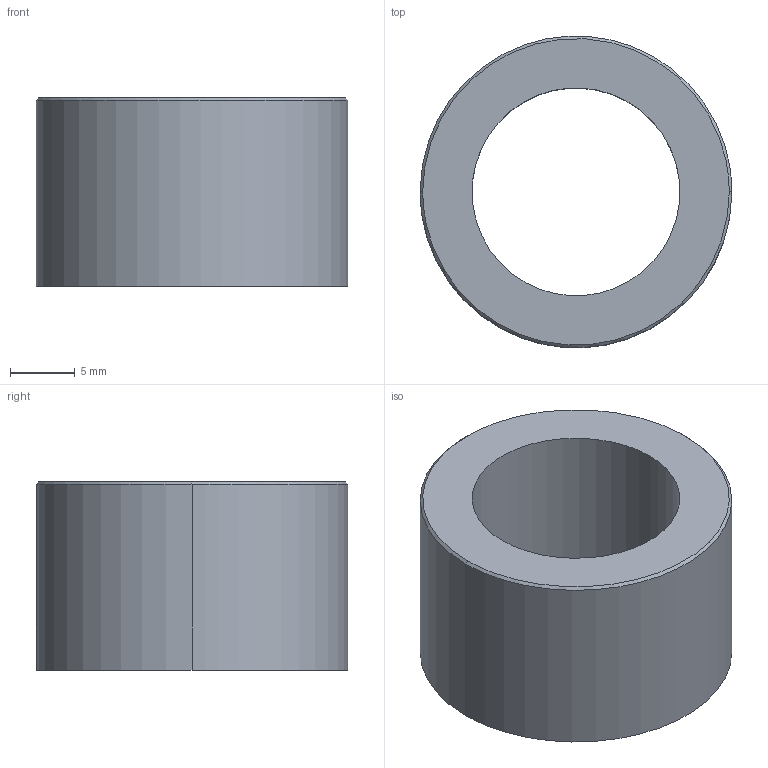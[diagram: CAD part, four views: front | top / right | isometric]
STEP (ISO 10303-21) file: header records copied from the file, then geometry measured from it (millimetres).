
FILE_DESCRIPTION(/* description */ (''),/* implementation_level */ '2;1');
FILE_NAME(/* name */ 'Nut',/* time_stamp */ '2020-06-25T00:31:16-06:00',/* author */ (''),/* organization */ (''),/* preprocessor_version */ 'ST-DEVELOPER v15',/* originating_system */ '',/* authorisation */ '');
FILE_SCHEMA (('AUTOMOTIVE_DESIGN'));
Length unit declared in the file: millimetre
Products named in the file (1): Document
Bounding box: 24 x 23.96 x 14.5 mm (x, y, z)
Volume: 3650.1 mm3; surface area: 2318.4 mm2
Topology: 1 solids, 1 shells, 8 faces, 16 edges, 10 vertices
Faces by surface type: bspline 6, plane 2
Entity records: 352 total; most frequent: CARTESIAN_POINT 220, ORIENTED_EDGE 32, EDGE_CURVE 16, EDGE_LOOP 10, VERTEX_POINT 10, ADVANCED_FACE 8, FACE_OUTER_BOUND 8, DIRECTION 6
